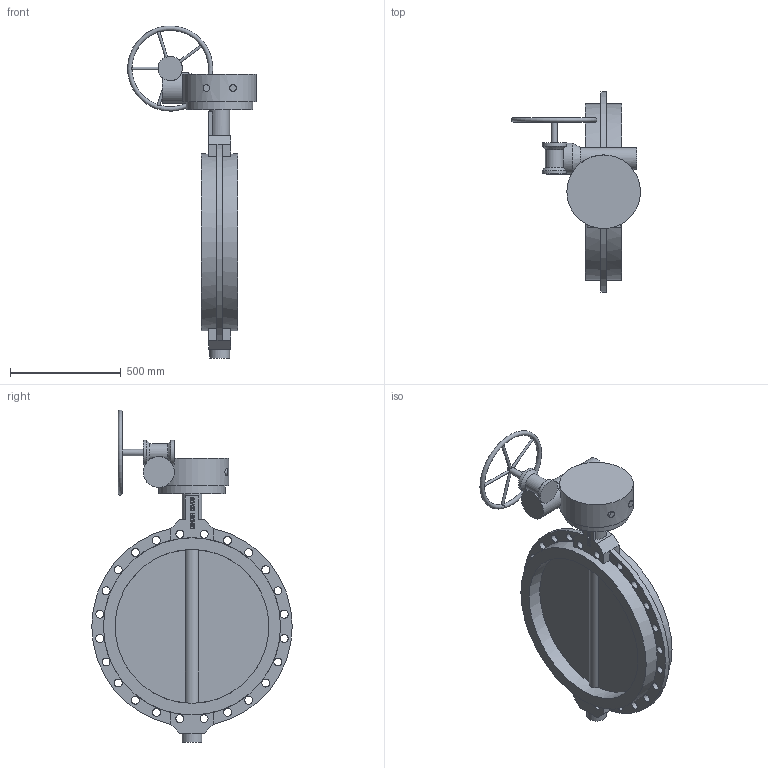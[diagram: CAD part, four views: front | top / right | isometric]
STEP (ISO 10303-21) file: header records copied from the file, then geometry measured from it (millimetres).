
FILE_DESCRIPTION(('STEP AP203'), '1');
FILE_NAME('青蜮铕 017W.ZS DN700 PN16 疱潴牝铕', '', ('UNSPECIFIED'), ('UNSPECIFIED'), 'ASCON STEP Converter 1.6', 'ASCON Math Kernel', '');
FILE_SCHEMA(('CONFIG_CONTROL_DESIGN'));
Length unit declared in the file: millimetre
Bounding box: 581.49 x 905 x 1499.04 mm (x, y, z)
Volume: 56712646.8 mm3; surface area: 2760506.9 mm2
Topology: 1 solids, 1 shells, 689 faces, 1923 edges, 1279 vertices
Faces by surface type: cylinder 499, plane 186, cone 3, torus 1
Full cylindrical faces by diameter (mm): 12 x5, 14 x8, 18 x8, 28 x1, 30 x2, 36 x24, 90 x2, 100 x1, 110 x2, 140 x1, 300 x1, 332 x1, 695 x2, 800 x2
Entity records: 30722 total; most frequent: CARTESIAN_POINT 6648, DIRECTION 4210, ORIENTED_EDGE 3720, EDGE_CURVE 1860, AXIS2_PLACEMENT_3D 1690, VERTEX_POINT 1278, CIRCLE 1000, EDGE_LOOP 850
